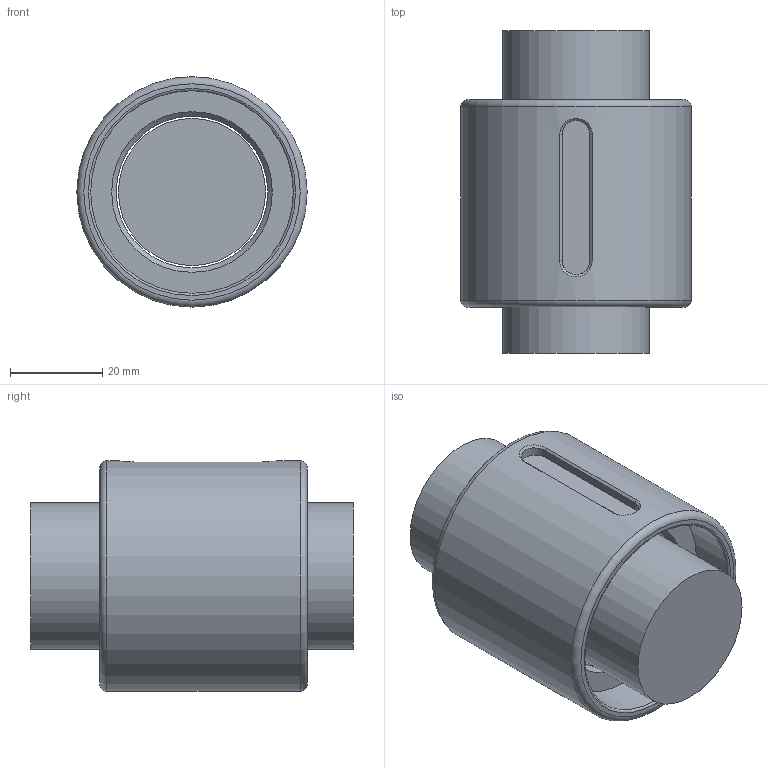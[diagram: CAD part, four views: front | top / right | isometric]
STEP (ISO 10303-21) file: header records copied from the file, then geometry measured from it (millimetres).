
FILE_DESCRIPTION(/* description */ (''),/* implementation_level */ '2;1');
FILE_NAME(/* name */ '3205.prt.step',/* time_stamp */ '2008-12-05T16:34:18+08:00',/* author */ (''),/* organization */ (''),/* preprocessor_version */ 'ST-DEVELOPER v11',/* originating_system */ 'SIEMENS UGS NX 6.0',/* authorisation */ '');
FILE_SCHEMA (('AUTOMOTIVE_DESIGN { 1 0 10303 214 1 1 1 1 }'));
Length unit declared in the file: millimetre
Products named in the file (1): 3205
Bounding box: 50 x 70 x 50 mm (x, y, z)
Volume: 92064 mm3; surface area: 23039.8 mm2
Topology: 2 solids, 2 shells, 26 faces, 50 edges, 31 vertices
Faces by surface type: plane 11, cylinder 7, torus 4, cone 2, bspline 2
Full cylindrical faces by diameter (mm): 31.95 x1, 32.9 x1, 44 x2, 50 x1
Entity records: 688 total; most frequent: CARTESIAN_POINT 193, DIRECTION 96, ORIENTED_EDGE 72, AXIS2_PLACEMENT_3D 43, EDGE_LOOP 42, EDGE_CURVE 36, FACE_BOUND 31, VERTEX_POINT 28
